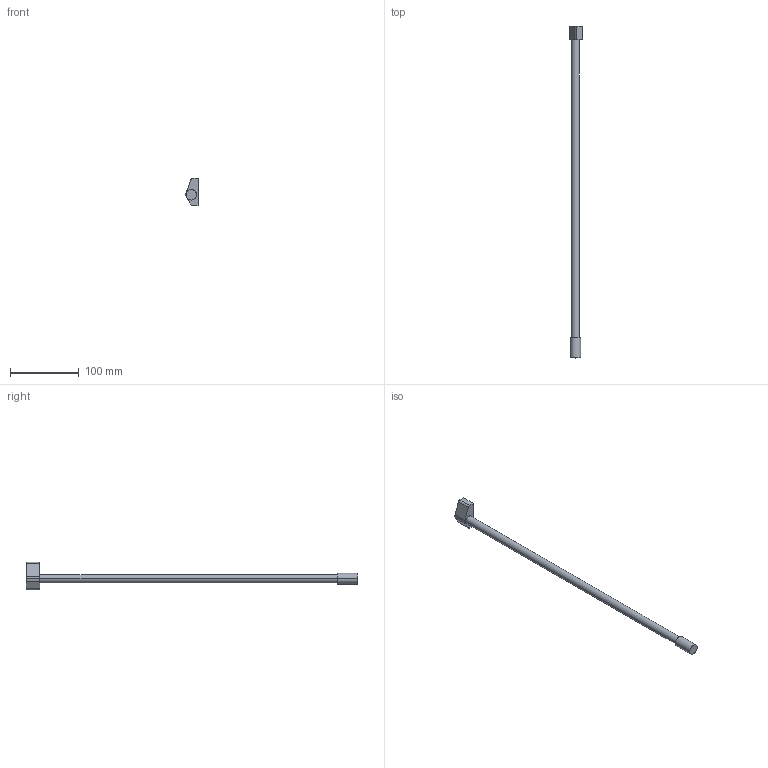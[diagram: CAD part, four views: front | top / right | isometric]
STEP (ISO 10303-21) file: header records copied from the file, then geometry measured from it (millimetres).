
FILE_DESCRIPTION (( 'STEP AP214' ), '1' );
FILE_NAME ('DWD-XP-Reling Innenschub_NL-500_links.step', '2010-09-27T06:30:34', ( 'grass' ), ( '' ), 'SwSTEP 2.0', 'SolidWorks 2010', '' );
FILE_SCHEMA (( 'AUTOMOTIVE_DESIGN' ));
Length unit declared in the file: millimetre
Products named in the file (1): DWD-XP-Reling Innenschub_NL-500_links
Bounding box: 18 x 484.3 x 40.1 mm (x, y, z)
Volume: 66323.8 mm3; surface area: 21192 mm2
Topology: 1 solids, 1 shells, 17 faces, 39 edges, 26 vertices
Faces by surface type: plane 9, cylinder 8
Entity records: 523 total; most frequent: DIRECTION 91, CARTESIAN_POINT 83, ORIENTED_EDGE 78, EDGE_CURVE 39, AXIS2_PLACEMENT_3D 34, VERTEX_POINT 26, VECTOR 23, LINE 23
